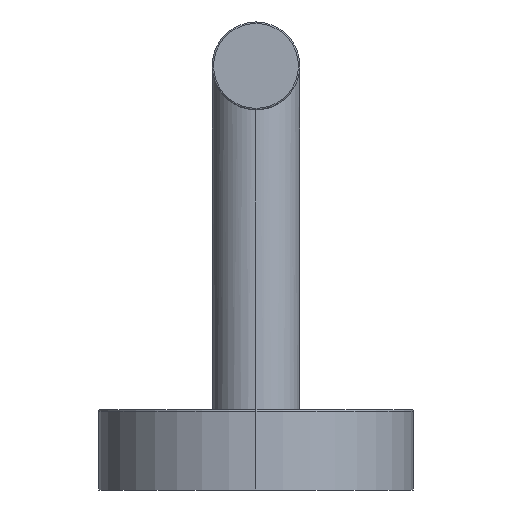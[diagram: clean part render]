
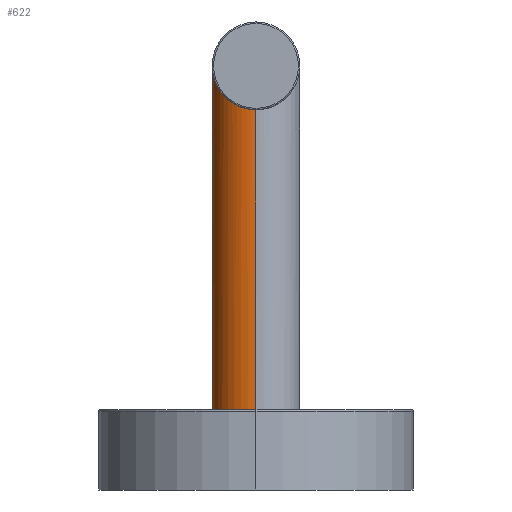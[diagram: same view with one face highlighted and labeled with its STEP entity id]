
A CAD part, left-side view. The second image highlights one B-rep face of the part: STEP entity #622.
In plain terms, the highlighted cylindrical face has radius 6 mm (diameter 12 mm), a partial arc.
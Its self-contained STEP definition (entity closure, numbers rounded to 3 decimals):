
#45=CARTESIAN_POINT('',(-278.5,0.,11.));
#46=DIRECTION('',(0.,0.,1.));
#47=DIRECTION('',(1.,0.,0.));
#48=AXIS2_PLACEMENT_3D('',#45,#46,#47);
#131=CARTESIAN_POINT('',(-272.5,0.,52.));
#163=CARTESIAN_POINT('',(-284.5,0.,52.));
#194=CARTESIAN_POINT('',(-284.5,0.,52.));
#195=CARTESIAN_POINT('',(-284.5,0.197,52.));
#196=CARTESIAN_POINT('',(-284.48,0.596,52.019));
#197=CARTESIAN_POINT('',(-284.389,1.201,52.111));
#198=CARTESIAN_POINT('',(-284.235,1.8,52.265));
#199=CARTESIAN_POINT('',(-284.013,2.397,52.487));
#200=CARTESIAN_POINT('',(-283.716,2.991,52.784));
#201=CARTESIAN_POINT('',(-283.343,3.565,53.157));
#202=CARTESIAN_POINT('',(-282.889,4.113,53.611));
#203=CARTESIAN_POINT('',(-282.342,4.63,54.158));
#204=CARTESIAN_POINT('',(-281.694,5.102,54.806));
#205=CARTESIAN_POINT('',(-280.941,5.504,55.559));
#206=CARTESIAN_POINT('',(-280.126,5.797,56.375));
#207=CARTESIAN_POINT('',(-279.286,5.967,57.213));
#208=CARTESIAN_POINT('',(-278.759,6.,57.743));
#209=CARTESIAN_POINT('',(-278.5,6.,58.));
#211=CARTESIAN_POINT('',(-278.5,6.,58.));
#212=CARTESIAN_POINT('',(-278.24,6.,57.742));
#213=CARTESIAN_POINT('',(-277.713,5.967,57.212));
#214=CARTESIAN_POINT('',(-276.872,5.797,56.372));
#215=CARTESIAN_POINT('',(-276.055,5.502,55.555));
#216=CARTESIAN_POINT('',(-275.303,5.1,54.803));
#217=CARTESIAN_POINT('',(-274.657,4.629,54.157));
#218=CARTESIAN_POINT('',(-274.111,4.112,53.611));
#219=CARTESIAN_POINT('',(-273.657,3.565,53.157));
#220=CARTESIAN_POINT('',(-273.284,2.991,52.784));
#221=CARTESIAN_POINT('',(-272.987,2.397,52.487));
#222=CARTESIAN_POINT('',(-272.765,1.8,52.265));
#223=CARTESIAN_POINT('',(-272.611,1.201,52.111));
#224=CARTESIAN_POINT('',(-272.52,0.596,52.019));
#225=CARTESIAN_POINT('',(-272.5,0.197,52.));
#226=CARTESIAN_POINT('',(-272.5,0.,52.));
#275=DIRECTION('',(0.,0.,1.));
#276=VECTOR('',#275,41.);
#277=CARTESIAN_POINT('',(-272.5,0.,11.));
#278=LINE('',#277,#276);
#279=DIRECTION('',(0.,0.,1.));
#280=VECTOR('',#279,41.);
#281=CARTESIAN_POINT('',(-284.5,0.,11.));
#282=LINE('',#281,#280);
#357=CARTESIAN_POINT('',(-272.5,0.,11.));
#358=CARTESIAN_POINT('',(-284.5,0.,11.));
#359=VERTEX_POINT('',#357);
#360=VERTEX_POINT('',#358);
#365=VERTEX_POINT('',#163);
#366=VERTEX_POINT('',#131);
#368=VERTEX_POINT('',#209);
#608=CARTESIAN_POINT('',(-278.5,0.,11.));
#609=DIRECTION('',(0.,0.,1.));
#610=DIRECTION('',(1.,0.,0.));
#611=AXIS2_PLACEMENT_3D('',#608,#609,#610);
#612=CYLINDRICAL_SURFACE('',#611,6.);
#613=ORIENTED_EDGE('',*,*,#483,.F.);
#615=ORIENTED_EDGE('',*,*,#614,.T.);
#616=ORIENTED_EDGE('',*,*,#596,.F.);
#617=ORIENTED_EDGE('',*,*,#594,.F.);
#619=ORIENTED_EDGE('',*,*,#618,.F.);
#620=EDGE_LOOP('',(#613,#615,#616,#617,#619));
#621=FACE_OUTER_BOUND('',#620,.F.);
#622=ADVANCED_FACE('',(#621),#612,.T.);
#49=CIRCLE('',#48,6.);
#210=B_SPLINE_CURVE_WITH_KNOTS('',3,(#194,#195,#196,#197,#198,#199,#200,#201,
#202,#203,#204,#205,#206,#207,#208,#209),.UNSPECIFIED.,.F.,.F.,(4,1,1,1,1,1,1,1,
1,1,1,1,1,4),(0.,0.077,0.154,0.231,
0.308,0.385,0.462,0.538,
0.615,0.692,0.769,0.846,
0.923,1.),.UNSPECIFIED.);
#227=B_SPLINE_CURVE_WITH_KNOTS('',3,(#211,#212,#213,#214,#215,#216,#217,#218,
#219,#220,#221,#222,#223,#224,#225,#226),.UNSPECIFIED.,.F.,.F.,(4,1,1,1,1,1,1,1,
1,1,1,1,1,4),(0.,0.077,0.154,0.231,
0.308,0.385,0.462,0.538,
0.615,0.692,0.769,0.846,
0.923,1.),.UNSPECIFIED.);
#483=EDGE_CURVE('',#359,#360,#49,.T.);
#594=EDGE_CURVE('',#365,#368,#210,.T.);
#596=EDGE_CURVE('',#368,#366,#227,.T.);
#614=EDGE_CURVE('',#359,#366,#278,.T.);
#618=EDGE_CURVE('',#360,#365,#282,.T.);
